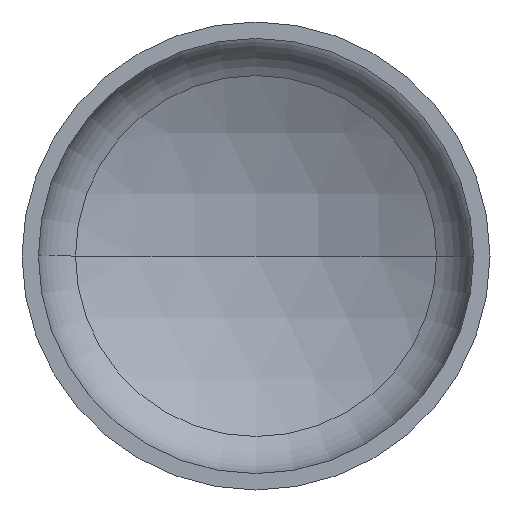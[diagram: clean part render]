
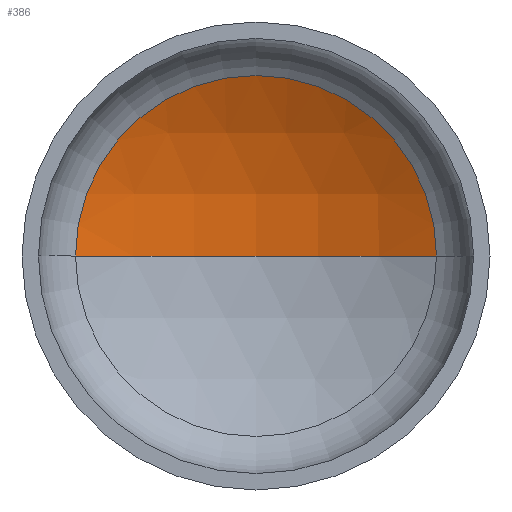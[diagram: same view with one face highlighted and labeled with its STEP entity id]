
A CAD part, front view. The second image highlights one B-rep face of the part: STEP entity #386.
In plain terms, the highlighted spherical face has radius 2560 mm.
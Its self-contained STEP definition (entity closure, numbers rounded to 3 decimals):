
#13 = EDGE_LOOP ( 'NONE', ( #154, #112, #46 ) ) ;
#31 = DIRECTION ( 'NONE',  ( 0., -1., 0. ) ) ;
#46 = ORIENTED_EDGE ( 'NONE', *, *, #323, .T. ) ;
#67 = CARTESIAN_POINT ( 'NONE',  ( 0., -1738.531, 0. ) ) ;
#68 = DIRECTION ( 'NONE',  ( 0., 0., 1. ) ) ;
#85 = DIRECTION ( 'NONE',  ( -1., 0., 0. ) ) ;
#108 = CARTESIAN_POINT ( 'NONE',  ( 0., -1738.531, 0. ) ) ;
#111 = VERTEX_POINT ( 'NONE', #355 ) ;
#112 = ORIENTED_EDGE ( 'NONE', *, *, #276, .T. ) ;
#119 = DIRECTION ( 'NONE',  ( 1., 0., 0. ) ) ;
#121 = AXIS2_PLACEMENT_3D ( 'NONE', #67, #68, #119 ) ;
#129 = DIRECTION ( 'NONE',  ( 1., 0., 0. ) ) ;
#140 = VERTEX_POINT ( 'NONE', #298 ) ;
#143 = FACE_OUTER_BOUND ( 'NONE', #13, .T. ) ;
#149 = CARTESIAN_POINT ( 'NONE',  ( 0., 504.29, 0. ) ) ;
#154 = ORIENTED_EDGE ( 'NONE', *, *, #263, .F. ) ;
#173 = DIRECTION ( 'NONE',  ( 0., 0., -1. ) ) ;
#177 = DIRECTION ( 'NONE',  ( -1., 0., 0. ) ) ;
#181 = AXIS2_PLACEMENT_3D ( 'NONE', #341, #173, #85 ) ;
#232 = SPHERICAL_SURFACE ( 'NONE', #391, 2560. ) ;
#250 = AXIS2_PLACEMENT_3D ( 'NONE', #149, #31, #129 ) ;
#252 = CIRCLE ( 'NONE', #121, 2560. ) ;
#263 = EDGE_CURVE ( 'NONE', #308, #140, #252, .T. ) ;
#276 = EDGE_CURVE ( 'NONE', #308, #111, #385, .T. ) ;
#298 = CARTESIAN_POINT ( 'NONE',  ( -1234.242, 504.29, 0. ) ) ;
#306 = CARTESIAN_POINT ( 'NONE',  ( 0., 821.469, 0. ) ) ;
#308 = VERTEX_POINT ( 'NONE', #306 ) ;
#319 = DIRECTION ( 'NONE',  ( 0., 0., -1. ) ) ;
#323 = EDGE_CURVE ( 'NONE', #111, #140, #376, .T. ) ;
#341 = CARTESIAN_POINT ( 'NONE',  ( 0., -1738.531, 0. ) ) ;
#355 = CARTESIAN_POINT ( 'NONE',  ( 1234.242, 504.29, 0. ) ) ;
#376 = CIRCLE ( 'NONE', #250, 1234.242 ) ;
#385 = CIRCLE ( 'NONE', #181, 2560. ) ;
#386 = ADVANCED_FACE ( 'NONE', ( #143 ), #232, .F. ) ;
#391 = AXIS2_PLACEMENT_3D ( 'NONE', #108, #319, #177 ) ;
